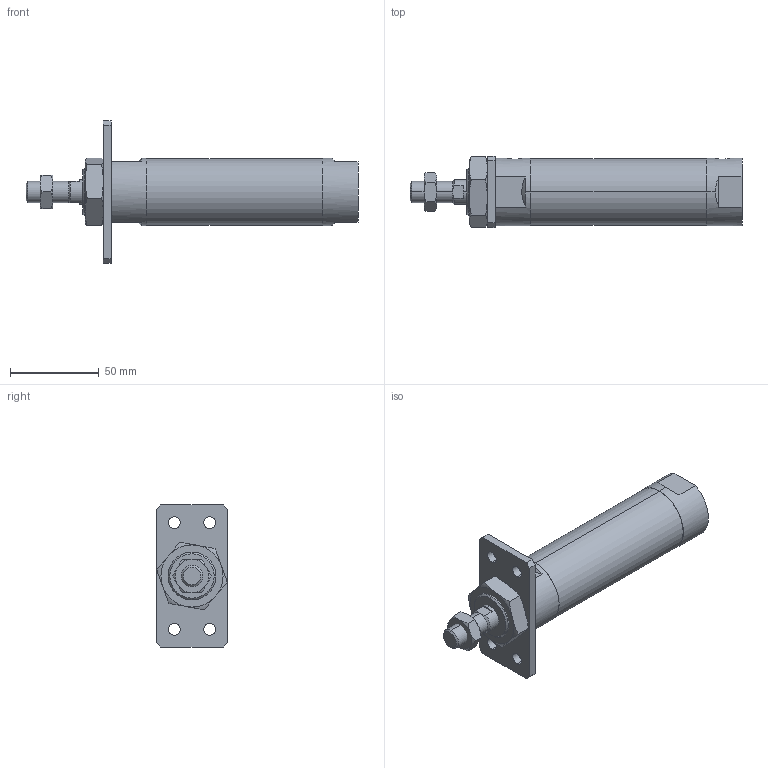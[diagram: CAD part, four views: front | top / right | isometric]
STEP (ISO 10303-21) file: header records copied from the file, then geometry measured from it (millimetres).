
FILE_DESCRIPTION (( 'STEP AP203' ), '1' );
FILE_NAME ('JGND2-32-50-A.STEP', '2016-08-04T02:48:05', ( '' ), ( '' ), 'SwSTEP 2.0', 'SolidWorks 2014', '' );
FILE_SCHEMA (( 'CONFIG_CONTROL_DESIGN' ));
Length unit declared in the file: millimetre
Products named in the file (5): J#2-32-A; J#2-32-50(P); JGND2-32-50-A
Assembly tree (4 placements, depth 2):
  JGND2-32-50-A
    J#2-32-50(P)
    (unnamed)
    (unnamed)
    J#2-32-A
Bounding box: 187 x 40 x 80 mm (x, y, z)
Volume: 182413.1 mm3; surface area: 33381.4 mm2
Topology: 4 solids, 4 shells, 109 faces, 254 edges, 155 vertices
Faces by surface type: plane 42, cylinder 30, torus 24, cone 13
Entity records: 4084 total; most frequent: CARTESIAN_POINT 1128, DIRECTION 511, ORIENTED_EDGE 500, EDGE_CURVE 250, AXIS2_PLACEMENT_3D 208, VERTEX_POINT 155, EDGE_LOOP 129, ADVANCED_FACE 109
